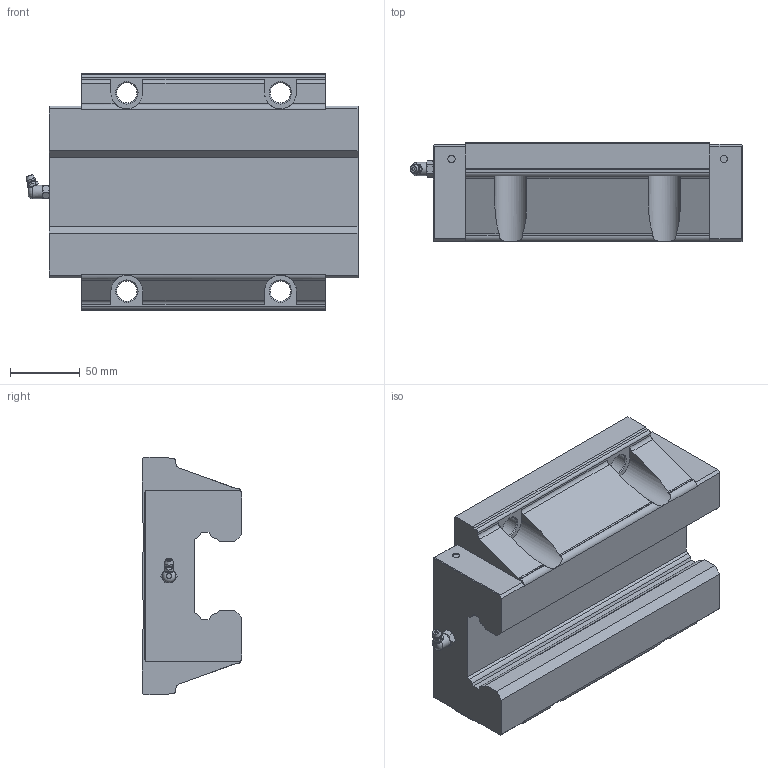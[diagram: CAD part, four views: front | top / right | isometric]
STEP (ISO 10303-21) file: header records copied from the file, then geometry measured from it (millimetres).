
FILE_DESCRIPTION(/* description */ ('STEP AP203'),/* implementation_level */ '2;1');
FILE_NAME(/* name */ 'SHS65C1SS(GK) BLOCK(B-PT1_81)',/* time_stamp */ '2024-05-14T03:37:21+02:00',/* author */ ('License CC BY-ND 4.0'),/* organization */ ('CADENAS'),/* preprocessor_version */ 'ST-DEVELOPER v19.3',/* originating_system */ 'PARTsolutions',/* authorisation */ ' ');
FILE_SCHEMA (('CONFIG_CONTROL_DESIGN'));
Length unit declared in the file: millimetre
Products named in the file (3): SHS65C1SS(GK) BLOCK(B-PT1/81); SHS65CSSB-PT1/81 Slide25-55; B-PT1/8-SHS_grease_nipple_joint
Assembly tree (2 placements, depth 2):
  SHS65C1SS(GK) BLOCK(B-PT1/81)
    SHS65CSSB-PT1/81 Slide25-55
    B-PT1/8-SHS_grease_nipple_joint
Bounding box: 237.7 x 71 x 170 mm (x, y, z)
Volume: 1791008.5 mm3; surface area: 138545.6 mm2
Topology: 2 solids, 2 shells, 165 faces, 450 edges, 295 vertices
Faces by surface type: plane 105, cylinder 35, cone 20, torus 3, sphere 2
Full cylindrical faces by diameter (mm): 5.2 x4, 9.6 x1, 14.5 x4
Entity records: 5088 total; most frequent: CARTESIAN_POINT 1055, ORIENTED_EDGE 798, DIRECTION 794, EDGE_CURVE 399, VERTEX_POINT 280, AXIS2_PLACEMENT_3D 266, LINE 262, VECTOR 262
